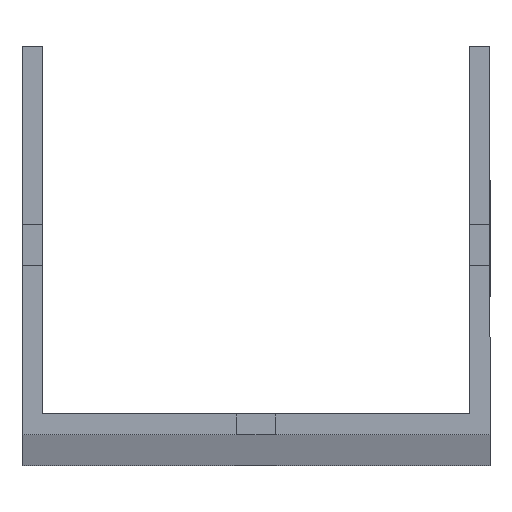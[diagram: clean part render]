
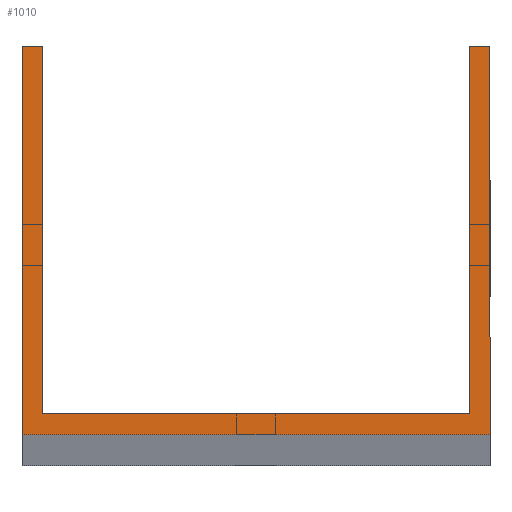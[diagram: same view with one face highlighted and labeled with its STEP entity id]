
A CAD part, top view. The second image highlights one B-rep face of the part: STEP entity #1010.
In plain terms, the highlighted planar face has unit normal (0, 0, 1).
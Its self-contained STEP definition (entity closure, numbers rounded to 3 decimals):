
#3 = VERTEX_POINT ( 'NONE', #1074 ) ;
#16 = CARTESIAN_POINT ( 'NONE',  ( 39.5, 65.5, 1500. ) ) ;
#30 = ORIENTED_EDGE ( 'NONE', *, *, #736, .F. ) ;
#31 = ORIENTED_EDGE ( 'NONE', *, *, #851, .F. ) ;
#60 = DIRECTION ( 'NONE',  ( 0., -1., 0. ) ) ;
#73 = CARTESIAN_POINT ( 'NONE',  ( 36., 3.5, 1500. ) ) ;
#150 = DIRECTION ( 'NONE',  ( 1., 0., 0. ) ) ;
#172 = LINE ( 'NONE', #945, #1043 ) ;
#174 = CARTESIAN_POINT ( 'NONE',  ( -39.5, 65.5, 1500. ) ) ;
#179 = ORIENTED_EDGE ( 'NONE', *, *, #400, .T. ) ;
#202 = VERTEX_POINT ( 'NONE', #1117 ) ;
#203 = DIRECTION ( 'NONE',  ( 0., -1., 0. ) ) ;
#233 = ORIENTED_EDGE ( 'NONE', *, *, #1059, .T. ) ;
#249 = DIRECTION ( 'NONE',  ( 1., 0., 0. ) ) ;
#258 = VERTEX_POINT ( 'NONE', #73 ) ;
#264 = ORIENTED_EDGE ( 'NONE', *, *, #1053, .T. ) ;
#293 = VECTOR ( 'NONE', #519, 1000. ) ;
#328 = PLANE ( 'NONE',  #606 ) ;
#335 = FACE_OUTER_BOUND ( 'NONE', #967, .T. ) ;
#349 = VECTOR ( 'NONE', #722, 1000. ) ;
#387 = ORIENTED_EDGE ( 'NONE', *, *, #1127, .T. ) ;
#400 = EDGE_CURVE ( 'NONE', #3, #644, #799, .T. ) ;
#502 = VERTEX_POINT ( 'NONE', #733 ) ;
#510 = DIRECTION ( 'NONE',  ( -1., 0., 0. ) ) ;
#519 = DIRECTION ( 'NONE',  ( -1., 0., 0. ) ) ;
#523 = VERTEX_POINT ( 'NONE', #908 ) ;
#563 = CARTESIAN_POINT ( 'NONE',  ( -39.5, 65.5, 1500. ) ) ;
#590 = VECTOR ( 'NONE', #994, 1000. ) ;
#591 = CARTESIAN_POINT ( 'NONE',  ( 0., 0., 1500. ) ) ;
#606 = AXIS2_PLACEMENT_3D ( 'NONE', #591, #685, #249 ) ;
#644 = VERTEX_POINT ( 'NONE', #1111 ) ;
#653 = LINE ( 'NONE', #753, #806 ) ;
#685 = DIRECTION ( 'NONE',  ( 0., 0., 1. ) ) ;
#701 = EDGE_CURVE ( 'NONE', #502, #1071, #1021, .T. ) ;
#722 = DIRECTION ( 'NONE',  ( 0., 1., 0. ) ) ;
#733 = CARTESIAN_POINT ( 'NONE',  ( -36., 65.5, 1500. ) ) ;
#735 = LINE ( 'NONE', #837, #590 ) ;
#736 = EDGE_CURVE ( 'NONE', #502, #523, #980, .T. ) ;
#746 = CARTESIAN_POINT ( 'NONE',  ( 36., 65.5, 1500. ) ) ;
#753 = CARTESIAN_POINT ( 'NONE',  ( -39.5, 3.5, 1500. ) ) ;
#768 = LINE ( 'NONE', #926, #988 ) ;
#773 = VECTOR ( 'NONE', #203, 1000. ) ;
#799 = LINE ( 'NONE', #16, #349 ) ;
#802 = CARTESIAN_POINT ( 'NONE',  ( -36., 65.5, 1500. ) ) ;
#806 = VECTOR ( 'NONE', #824, 1000. ) ;
#824 = DIRECTION ( 'NONE',  ( 1., 0., 0. ) ) ;
#837 = CARTESIAN_POINT ( 'NONE',  ( 36., 65.5, 1500. ) ) ;
#843 = VECTOR ( 'NONE', #60, 1000. ) ;
#851 = EDGE_CURVE ( 'NONE', #523, #258, #653, .T. ) ;
#908 = CARTESIAN_POINT ( 'NONE',  ( -36., 3.5, 1500. ) ) ;
#923 = LINE ( 'NONE', #563, #843 ) ;
#926 = CARTESIAN_POINT ( 'NONE',  ( -39.5, 0., 1500. ) ) ;
#945 = CARTESIAN_POINT ( 'NONE',  ( -39.5, 65.5, 1500. ) ) ;
#957 = VERTEX_POINT ( 'NONE', #746 ) ;
#967 = EDGE_LOOP ( 'NONE', ( #30, #999, #387, #233, #179, #264, #1066, #31 ) ) ;
#980 = LINE ( 'NONE', #802, #773 ) ;
#988 = VECTOR ( 'NONE', #150, 1000. ) ;
#994 = DIRECTION ( 'NONE',  ( 0., 1., 0. ) ) ;
#999 = ORIENTED_EDGE ( 'NONE', *, *, #701, .T. ) ;
#1010 = ADVANCED_FACE ( 'NONE', ( #335 ), #328, .T. ) ;
#1021 = LINE ( 'NONE', #174, #293 ) ;
#1043 = VECTOR ( 'NONE', #510, 1000. ) ;
#1053 = EDGE_CURVE ( 'NONE', #644, #957, #172, .T. ) ;
#1059 = EDGE_CURVE ( 'NONE', #202, #3, #768, .T. ) ;
#1066 = ORIENTED_EDGE ( 'NONE', *, *, #1113, .F. ) ;
#1071 = VERTEX_POINT ( 'NONE', #1126 ) ;
#1074 = CARTESIAN_POINT ( 'NONE',  ( 39.5, 0., 1500. ) ) ;
#1111 = CARTESIAN_POINT ( 'NONE',  ( 39.5, 65.5, 1500. ) ) ;
#1113 = EDGE_CURVE ( 'NONE', #258, #957, #735, .T. ) ;
#1117 = CARTESIAN_POINT ( 'NONE',  ( -39.5, 0., 1500. ) ) ;
#1126 = CARTESIAN_POINT ( 'NONE',  ( -39.5, 65.5, 1500. ) ) ;
#1127 = EDGE_CURVE ( 'NONE', #1071, #202, #923, .T. ) ;
